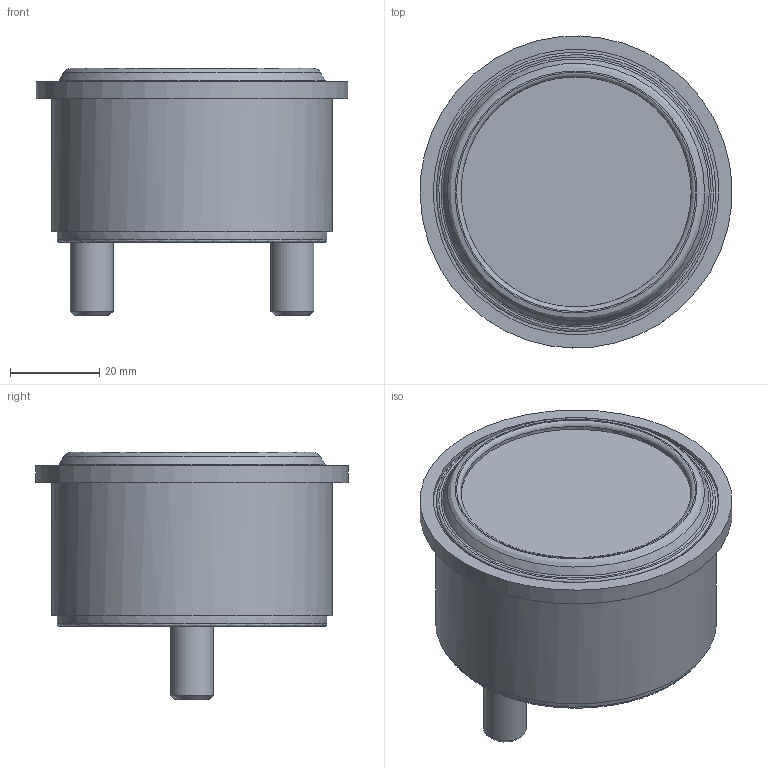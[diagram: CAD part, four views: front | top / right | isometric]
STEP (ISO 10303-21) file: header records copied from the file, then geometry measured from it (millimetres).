
FILE_DESCRIPTION(/* description */ (''),/* implementation_level */ '2;1');
FILE_NAME(/* name */ '9_san_marco',/* time_stamp */ '2022-06-30T10:47:51+02:00',/* author */ (''),/* organization */ (''),/* preprocessor_version */ 'ST-DEVELOPER v16.5',/* originating_system */ 'Rhino 7.20',/* authorisation */ '');
FILE_SCHEMA (('AUTOMOTIVE_DESIGN_CC2'));
Length unit declared in the file: millimetre
Products named in the file (1): Document
Bounding box: 69.97 x 69.98 x 55.5 mm (x, y, z)
Volume: 120923.7 mm3; surface area: 16629.2 mm2
Topology: 1 solids, 1 shells, 26 faces, 41 edges, 25 vertices
Faces by surface type: plane 10, cylinder 8, bspline 8
Full cylindrical faces by diameter (mm): 9.64 x2, 51.6 x1, 60.5 x1, 62.6 x1, 63 x1, 64 x1, 70 x1
Entity records: 831 total; most frequent: CARTESIAN_POINT 496, ORIENTED_EDGE 82, EDGE_CURVE 41, EDGE_LOOP 34, ADVANCED_FACE 26, FACE_OUTER_BOUND 26, VERTEX_POINT 25, DIRECTION 22
